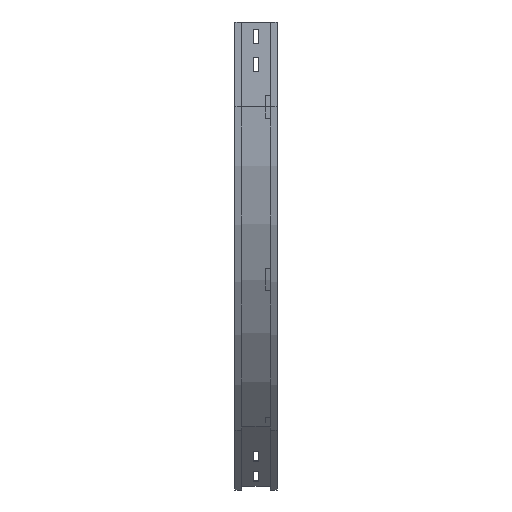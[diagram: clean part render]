
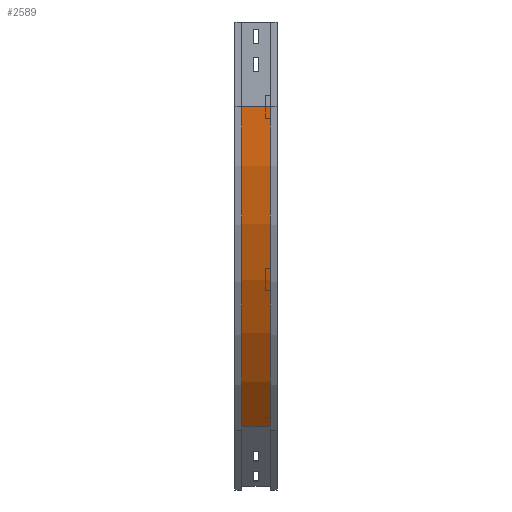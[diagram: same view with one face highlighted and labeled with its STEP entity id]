
A CAD part, left-side view. The second image highlights one B-rep face of the part: STEP entity #2589.
In plain terms, the highlighted cylindrical face has radius 800 mm (diameter 1600 mm), a partial arc.
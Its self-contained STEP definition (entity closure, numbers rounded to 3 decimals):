
#120 = DIRECTION ( 'NONE',  ( -1., 0., 0. ) ) ;
#125 = EDGE_LOOP ( 'NONE', ( #2912, #2170, #2565, #3222 ) ) ;
#224 = DIRECTION ( 'NONE',  ( 0., -1., 0. ) ) ;
#295 = VERTEX_POINT ( 'NONE', #521 ) ;
#376 = VECTOR ( 'NONE', #1900, 1000. ) ;
#521 = CARTESIAN_POINT ( 'NONE',  ( 9., 12., -150. ) ) ;
#620 = CARTESIAN_POINT ( 'NONE',  ( 809., 63., -150. ) ) ;
#944 = VERTEX_POINT ( 'NONE', #2081 ) ;
#1016 = EDGE_CURVE ( 'NONE', #944, #295, #2053, .T. ) ;
#1163 = DIRECTION ( 'NONE',  ( -1., 0., 0. ) ) ;
#1406 = AXIS2_PLACEMENT_3D ( 'NONE', #2491, #3280, #3031 ) ;
#1688 = VERTEX_POINT ( 'NONE', #2878 ) ;
#1790 = AXIS2_PLACEMENT_3D ( 'NONE', #2009, #224, #120 ) ;
#1900 = DIRECTION ( 'NONE',  ( 0., -1., 0. ) ) ;
#1946 = VERTEX_POINT ( 'NONE', #2173 ) ;
#1986 = CYLINDRICAL_SURFACE ( 'NONE', #1406, 800. ) ;
#2009 = CARTESIAN_POINT ( 'NONE',  ( 809., 12., -150. ) ) ;
#2053 = LINE ( 'NONE', #3085, #376 ) ;
#2062 = VECTOR ( 'NONE', #2255, 1000. ) ;
#2081 = CARTESIAN_POINT ( 'NONE',  ( 9., 63., -150. ) ) ;
#2128 = EDGE_CURVE ( 'NONE', #295, #1688, #3246, .T. ) ;
#2146 = EDGE_CURVE ( 'NONE', #1946, #1688, #2484, .T. ) ;
#2170 = ORIENTED_EDGE ( 'NONE', *, *, #1016, .F. ) ;
#2173 = CARTESIAN_POINT ( 'NONE',  ( 243.315, 63., -715.685 ) ) ;
#2197 = FACE_OUTER_BOUND ( 'NONE', #125, .T. ) ;
#2255 = DIRECTION ( 'NONE',  ( 0., -1., 0. ) ) ;
#2484 = LINE ( 'NONE', #3273, #2062 ) ;
#2491 = CARTESIAN_POINT ( 'NONE',  ( 809., 0., -150. ) ) ;
#2559 = EDGE_CURVE ( 'NONE', #944, #1946, #2750, .T. ) ;
#2565 = ORIENTED_EDGE ( 'NONE', *, *, #2559, .T. ) ;
#2589 = ADVANCED_FACE ( 'NONE', ( #2197 ), #1986, .T. ) ;
#2750 = CIRCLE ( 'NONE', #2813, 800. ) ;
#2813 = AXIS2_PLACEMENT_3D ( 'NONE', #620, #2998, #1163 ) ;
#2878 = CARTESIAN_POINT ( 'NONE',  ( 243.315, 12., -715.685 ) ) ;
#2912 = ORIENTED_EDGE ( 'NONE', *, *, #2128, .F. ) ;
#2998 = DIRECTION ( 'NONE',  ( 0., -1., 0. ) ) ;
#3031 = DIRECTION ( 'NONE',  ( 0., 0., -1. ) ) ;
#3085 = CARTESIAN_POINT ( 'NONE',  ( 9., 12., -150. ) ) ;
#3222 = ORIENTED_EDGE ( 'NONE', *, *, #2146, .T. ) ;
#3246 = CIRCLE ( 'NONE', #1790, 800. ) ;
#3273 = CARTESIAN_POINT ( 'NONE',  ( 243.315, 12., -715.685 ) ) ;
#3280 = DIRECTION ( 'NONE',  ( 0., -1., 0. ) ) ;
